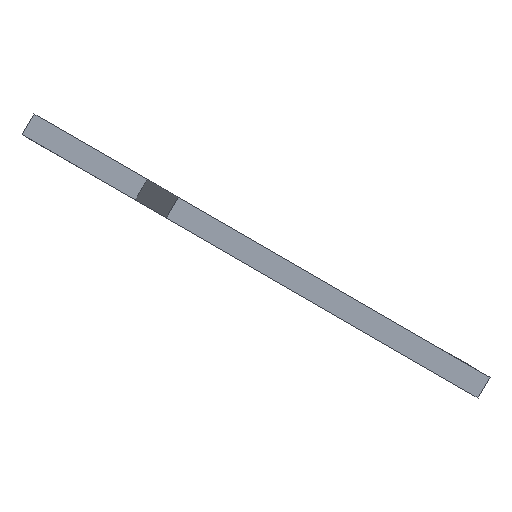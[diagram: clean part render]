
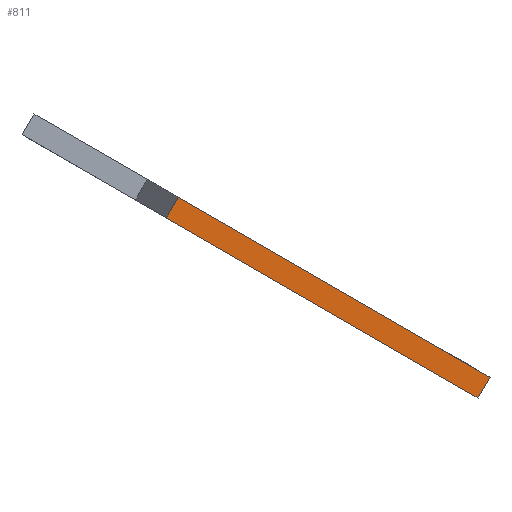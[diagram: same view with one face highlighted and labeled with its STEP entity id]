
A CAD part, left-side view. The second image highlights one B-rep face of the part: STEP entity #811.
In plain terms, the highlighted planar face has unit normal (-1, 0, 0).
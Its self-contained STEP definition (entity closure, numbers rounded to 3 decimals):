
#72 = PLANE('',#73);
#73 = AXIS2_PLACEMENT_3D('',#74,#75,#76);
#74 = CARTESIAN_POINT('',(35.092,-62.882,
    -38.614));
#75 = DIRECTION('',(-0.,0.5,-0.866));
#76 = DIRECTION('',(0.,0.866,0.5));
#126 = PLANE('',#127);
#127 = AXIS2_PLACEMENT_3D('',#128,#129,#130);
#128 = CARTESIAN_POINT('',(35.092,-64.882,
    -35.15));
#129 = DIRECTION('',(-0.,0.5,-0.866));
#130 = DIRECTION('',(0.,0.866,0.5));
#159 = PLANE('',#160);
#160 = AXIS2_PLACEMENT_3D('',#161,#162,#163);
#161 = CARTESIAN_POINT('',(22.9,-50.229,-29.));
#162 = DIRECTION('',(0.329,-0.818,-0.472));
#163 = DIRECTION('',(0.944,0.285,0.165));
#360 = VERTEX_POINT('',#361);
#361 = CARTESIAN_POINT('',(22.9,-101.191,-60.732));
#375 = PLANE('',#376);
#376 = AXIS2_PLACEMENT_3D('',#377,#378,#379);
#377 = CARTESIAN_POINT('',(38.9,-102.191,-59.));
#378 = DIRECTION('',(-0.,0.866,0.5));
#379 = DIRECTION('',(-1.,-0.,0.));
#387 = EDGE_CURVE('',#360,#388,#390,.T.);
#388 = VERTEX_POINT('',#389);
#389 = CARTESIAN_POINT('',(22.9,-49.229,-30.732));
#390 = SURFACE_CURVE('',#391,(#395,#402),.PCURVE_S1.);
#391 = LINE('',#392,#393);
#392 = CARTESIAN_POINT('',(22.9,-101.191,-60.732));
#393 = VECTOR('',#394,1.);
#394 = DIRECTION('',(0.,0.866,0.5));
#395 = PCURVE('',#72,#396);
#396 = DEFINITIONAL_REPRESENTATION('',(#397),#401);
#397 = LINE('',#398,#399);
#398 = CARTESIAN_POINT('',(-44.236,-12.192));
#399 = VECTOR('',#400,1.);
#400 = DIRECTION('',(1.,0.));
#401 = ( GEOMETRIC_REPRESENTATION_CONTEXT(2) 
PARAMETRIC_REPRESENTATION_CONTEXT() REPRESENTATION_CONTEXT('2D SPACE',''
  ) );
#402 = PCURVE('',#403,#408);
#403 = PLANE('',#404);
#404 = AXIS2_PLACEMENT_3D('',#405,#406,#407);
#405 = CARTESIAN_POINT('',(22.9,-102.191,-59.));
#406 = DIRECTION('',(1.,0.,0.));
#407 = DIRECTION('',(0.,0.866,0.5));
#408 = DEFINITIONAL_REPRESENTATION('',(#409),#413);
#409 = LINE('',#410,#411);
#410 = CARTESIAN_POINT('',(0.,-2.));
#411 = VECTOR('',#412,1.);
#412 = DIRECTION('',(1.,0.));
#413 = ( GEOMETRIC_REPRESENTATION_CONTEXT(2) 
PARAMETRIC_REPRESENTATION_CONTEXT() REPRESENTATION_CONTEXT('2D SPACE',''
  ) );
#659 = VERTEX_POINT('',#660);
#660 = CARTESIAN_POINT('',(22.9,-103.191,-57.268));
#681 = EDGE_CURVE('',#659,#682,#684,.T.);
#682 = VERTEX_POINT('',#683);
#683 = CARTESIAN_POINT('',(22.9,-51.229,-27.268));
#684 = SURFACE_CURVE('',#685,(#689,#696),.PCURVE_S1.);
#685 = LINE('',#686,#687);
#686 = CARTESIAN_POINT('',(22.9,-103.191,-57.268));
#687 = VECTOR('',#688,1.);
#688 = DIRECTION('',(0.,0.866,0.5));
#689 = PCURVE('',#126,#690);
#690 = DEFINITIONAL_REPRESENTATION('',(#691),#695);
#691 = LINE('',#692,#693);
#692 = CARTESIAN_POINT('',(-44.236,-12.192));
#693 = VECTOR('',#694,1.);
#694 = DIRECTION('',(1.,0.));
#695 = ( GEOMETRIC_REPRESENTATION_CONTEXT(2) 
PARAMETRIC_REPRESENTATION_CONTEXT() REPRESENTATION_CONTEXT('2D SPACE',''
  ) );
#696 = PCURVE('',#403,#697);
#697 = DEFINITIONAL_REPRESENTATION('',(#698),#702);
#698 = LINE('',#699,#700);
#699 = CARTESIAN_POINT('',(0.,2.));
#700 = VECTOR('',#701,1.);
#701 = DIRECTION('',(1.,0.));
#702 = ( GEOMETRIC_REPRESENTATION_CONTEXT(2) 
PARAMETRIC_REPRESENTATION_CONTEXT() REPRESENTATION_CONTEXT('2D SPACE',''
  ) );
#788 = EDGE_CURVE('',#388,#682,#789,.T.);
#789 = SURFACE_CURVE('',#790,(#794,#801),.PCURVE_S1.);
#790 = LINE('',#791,#792);
#791 = CARTESIAN_POINT('',(22.9,-49.229,-30.732));
#792 = VECTOR('',#793,1.);
#793 = DIRECTION('',(0.,-0.5,0.866));
#794 = PCURVE('',#159,#795);
#795 = DEFINITIONAL_REPRESENTATION('',(#796),#800);
#796 = LINE('',#797,#798);
#797 = CARTESIAN_POINT('',(0.,-2.));
#798 = VECTOR('',#799,1.);
#799 = DIRECTION('',(0.,1.));
#800 = ( GEOMETRIC_REPRESENTATION_CONTEXT(2) 
PARAMETRIC_REPRESENTATION_CONTEXT() REPRESENTATION_CONTEXT('2D SPACE',''
  ) );
#801 = PCURVE('',#403,#802);
#802 = DEFINITIONAL_REPRESENTATION('',(#803),#807);
#803 = LINE('',#804,#805);
#804 = CARTESIAN_POINT('',(60.,-2.));
#805 = VECTOR('',#806,1.);
#806 = DIRECTION('',(0.,1.));
#807 = ( GEOMETRIC_REPRESENTATION_CONTEXT(2) 
PARAMETRIC_REPRESENTATION_CONTEXT() REPRESENTATION_CONTEXT('2D SPACE',''
  ) );
#811 = ADVANCED_FACE('',(#812),#403,.F.);
#812 = FACE_BOUND('',#813,.F.);
#813 = EDGE_LOOP('',(#814,#815,#816,#817));
#814 = ORIENTED_EDGE('',*,*,#387,.T.);
#815 = ORIENTED_EDGE('',*,*,#788,.T.);
#816 = ORIENTED_EDGE('',*,*,#681,.F.);
#817 = ORIENTED_EDGE('',*,*,#818,.T.);
#818 = EDGE_CURVE('',#659,#360,#819,.T.);
#819 = SURFACE_CURVE('',#820,(#824,#831),.PCURVE_S1.);
#820 = LINE('',#821,#822);
#821 = CARTESIAN_POINT('',(22.9,-103.191,-57.268));
#822 = VECTOR('',#823,1.);
#823 = DIRECTION('',(0.,0.5,-0.866));
#824 = PCURVE('',#403,#825);
#825 = DEFINITIONAL_REPRESENTATION('',(#826),#830);
#826 = LINE('',#827,#828);
#827 = CARTESIAN_POINT('',(0.,2.));
#828 = VECTOR('',#829,1.);
#829 = DIRECTION('',(0.,-1.));
#830 = ( GEOMETRIC_REPRESENTATION_CONTEXT(2) 
PARAMETRIC_REPRESENTATION_CONTEXT() REPRESENTATION_CONTEXT('2D SPACE',''
  ) );
#831 = PCURVE('',#375,#832);
#832 = DEFINITIONAL_REPRESENTATION('',(#833),#837);
#833 = LINE('',#834,#835);
#834 = CARTESIAN_POINT('',(16.,2.));
#835 = VECTOR('',#836,1.);
#836 = DIRECTION('',(-0.,-1.));
#837 = ( GEOMETRIC_REPRESENTATION_CONTEXT(2) 
PARAMETRIC_REPRESENTATION_CONTEXT() REPRESENTATION_CONTEXT('2D SPACE',''
  ) );
